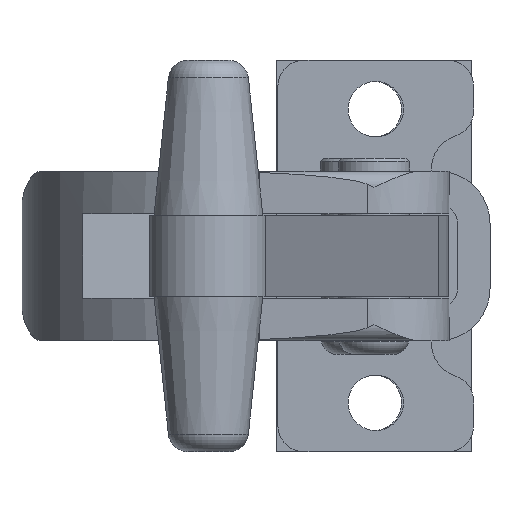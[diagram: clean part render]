
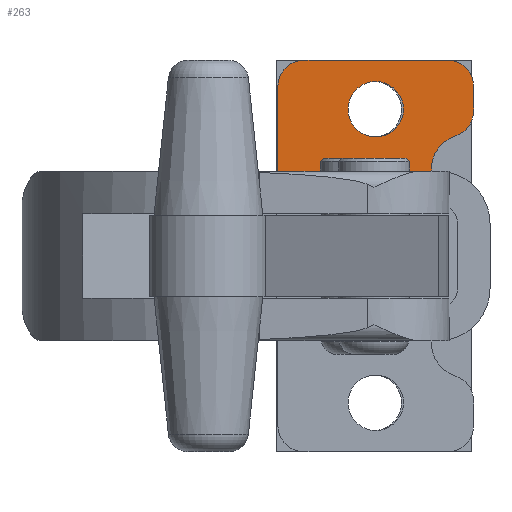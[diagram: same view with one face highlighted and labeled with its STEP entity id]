
A CAD part, front view. The second image highlights one B-rep face of the part: STEP entity #263.
In plain terms, the highlighted planar face has unit normal (0, -1, 0).
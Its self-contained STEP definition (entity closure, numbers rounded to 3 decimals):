
#263 = ADVANCED_FACE( '', ( #501, #502 ), #503, .T. );
#501 = FACE_BOUND( '', #977, .T. );
#502 = FACE_OUTER_BOUND( '', #978, .T. );
#503 = PLANE( '', #979 );
#977 = EDGE_LOOP( '', ( #1592 ) );
#978 = EDGE_LOOP( '', ( #1593, #1594, #1595, #1596, #1597, #1598, #1599, #1600, #1601 ) );
#979 = AXIS2_PLACEMENT_3D( '', #1602, #1603, #1604 );
#1592 = ORIENTED_EDGE( '', *, *, #3174, .T. );
#1593 = ORIENTED_EDGE( '', *, *, #3175, .F. );
#1594 = ORIENTED_EDGE( '', *, *, #3176, .T. );
#1595 = ORIENTED_EDGE( '', *, *, #3177, .F. );
#1596 = ORIENTED_EDGE( '', *, *, #3178, .F. );
#1597 = ORIENTED_EDGE( '', *, *, #3179, .F. );
#1598 = ORIENTED_EDGE( '', *, *, #3180, .F. );
#1599 = ORIENTED_EDGE( '', *, *, #3181, .F. );
#1600 = ORIENTED_EDGE( '', *, *, #3120, .T. );
#1601 = ORIENTED_EDGE( '', *, *, #3173, .F. );
#1602 = CARTESIAN_POINT( '', ( 50., 17.287, 13.013 ) );
#1603 = DIRECTION( '', ( 0., -1., 0. ) );
#1604 = DIRECTION( '', ( 0., 0., -1. ) );
#3120 = EDGE_CURVE( '', #3682, #3680, #3683, .T. );
#3173 = EDGE_CURVE( '', #3773, #3680, #3775, .T. );
#3174 = EDGE_CURVE( '', #3776, #3776, #3777, .F. );
#3175 = EDGE_CURVE( '', #3778, #3773, #3779, .T. );
#3176 = EDGE_CURVE( '', #3778, #3780, #3781, .F. );
#3177 = EDGE_CURVE( '', #3782, #3780, #3783, .F. );
#3178 = EDGE_CURVE( '', #3784, #3782, #3785, .T. );
#3179 = EDGE_CURVE( '', #3786, #3784, #3787, .F. );
#3180 = EDGE_CURVE( '', #3788, #3786, #3789, .T. );
#3181 = EDGE_CURVE( '', #3682, #3788, #3790, .F. );
#3680 = VERTEX_POINT( '', #4592 );
#3682 = VERTEX_POINT( '', #4595 );
#3683 = LINE( '', #4596, #4597 );
#3773 = VERTEX_POINT( '', #4720 );
#3775 = LINE( '', #4723, #4724 );
#3776 = VERTEX_POINT( '', #4725 );
#3777 = CIRCLE( '', #4726, 4.25 );
#3778 = VERTEX_POINT( '', #4727 );
#3779 = LINE( '', #4728, #4729 );
#3780 = VERTEX_POINT( '', #4730 );
#3781 = CIRCLE( '', #4731, 5.5 );
#3782 = VERTEX_POINT( '', #4732 );
#3783 = CIRCLE( '', #4733, 4. );
#3784 = VERTEX_POINT( '', #4734 );
#3785 = LINE( '', #4735, #4736 );
#3786 = VERTEX_POINT( '', #4737 );
#3787 = CIRCLE( '', #4738, 4. );
#3788 = VERTEX_POINT( '', #4739 );
#3789 = LINE( '', #4740, #4741 );
#3790 = CIRCLE( '', #4742, 4. );
#4592 = CARTESIAN_POINT( '', ( -12., 17.287, 13.013 ) );
#4595 = CARTESIAN_POINT( '', ( -12., 17.287, 26. ) );
#4596 = CARTESIAN_POINT( '', ( -12., 17.287, 30. ) );
#4597 = VECTOR( '', #6093, 1000. );
#4720 = CARTESIAN_POINT( '', ( 11.56, 17.287, 13.013 ) );
#4723 = CARTESIAN_POINT( '', ( 50., 17.287, 13.013 ) );
#4724 = VECTOR( '', #6182, 1000. );
#4725 = CARTESIAN_POINT( '', ( 3., 17.287, 18.253 ) );
#4726 = AXIS2_PLACEMENT_3D( '', #6183, #6184, #6185 );
#4727 = CARTESIAN_POINT( '', ( 11.56, 17.287, 14.016 ) );
#4728 = CARTESIAN_POINT( '', ( 11.56, 17.287, 13.013 ) );
#4729 = VECTOR( '', #6186, 1000. );
#4730 = CARTESIAN_POINT( '', ( 15.263, 17.287, 18.421 ) );
#4731 = AXIS2_PLACEMENT_3D( '', #6187, #6188, #6189 );
#4732 = CARTESIAN_POINT( '', ( 18., 17.287, 22.217 ) );
#4733 = AXIS2_PLACEMENT_3D( '', #6190, #6191, #6192 );
#4734 = CARTESIAN_POINT( '', ( 18., 17.287, 26. ) );
#4735 = CARTESIAN_POINT( '', ( 18., 17.287, 13.013 ) );
#4736 = VECTOR( '', #6193, 1000. );
#4737 = CARTESIAN_POINT( '', ( 14., 17.287, 30. ) );
#4738 = AXIS2_PLACEMENT_3D( '', #6194, #6195, #6196 );
#4739 = CARTESIAN_POINT( '', ( -8., 17.287, 30. ) );
#4740 = CARTESIAN_POINT( '', ( 0.868, 17.287, 30. ) );
#4741 = VECTOR( '', #6197, 1000. );
#4742 = AXIS2_PLACEMENT_3D( '', #6198, #6199, #6200 );
#6093 = DIRECTION( '', ( 0., 0., -1. ) );
#6182 = DIRECTION( '', ( -1., 0., 0. ) );
#6183 = CARTESIAN_POINT( '', ( 3., 17.287, 22.503 ) );
#6184 = DIRECTION( '', ( 0., -1., 0. ) );
#6185 = DIRECTION( '', ( 0., 0., -1. ) );
#6186 = DIRECTION( '', ( 0., 0., -1. ) );
#6187 = CARTESIAN_POINT( '', ( 17., 17.287, 13.203 ) );
#6188 = DIRECTION( '', ( 0., -1., 0. ) );
#6189 = DIRECTION( '', ( 0., 0., -1. ) );
#6190 = CARTESIAN_POINT( '', ( 14., 17.287, 22.217 ) );
#6191 = DIRECTION( '', ( 0., -1., 0. ) );
#6192 = DIRECTION( '', ( 0., 0., -1. ) );
#6193 = DIRECTION( '', ( 0., 0., -1. ) );
#6194 = CARTESIAN_POINT( '', ( 14., 17.287, 26. ) );
#6195 = DIRECTION( '', ( 0., -1., 0. ) );
#6196 = DIRECTION( '', ( 0., 0., -1. ) );
#6197 = DIRECTION( '', ( 1., 0., 0. ) );
#6198 = CARTESIAN_POINT( '', ( -8., 17.287, 26. ) );
#6199 = DIRECTION( '', ( 0., -1., 0. ) );
#6200 = DIRECTION( '', ( 0., 0., -1. ) );
